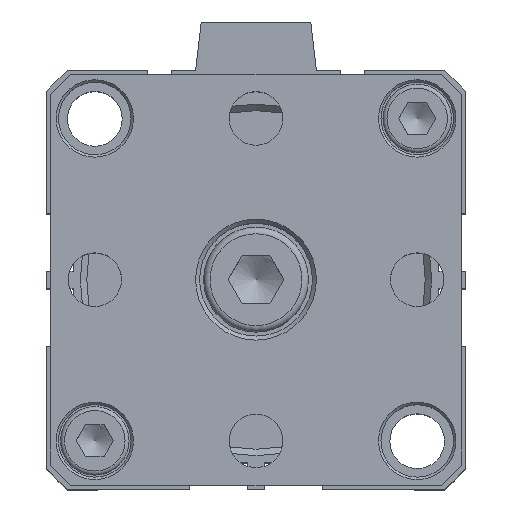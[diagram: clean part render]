
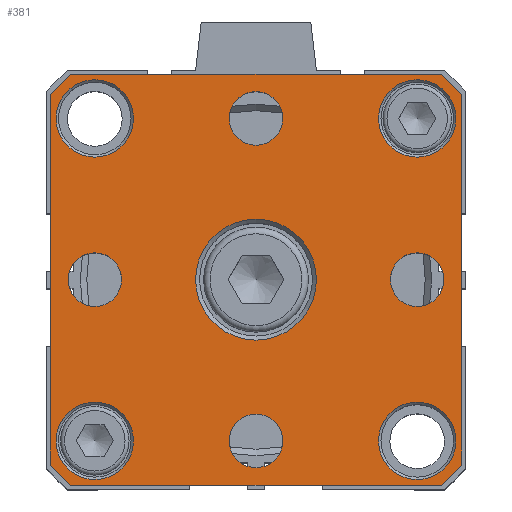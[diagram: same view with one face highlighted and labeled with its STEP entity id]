
A CAD part, top view. The second image highlights one B-rep face of the part: STEP entity #381.
In plain terms, the highlighted planar face has unit normal (0, 0, 1).
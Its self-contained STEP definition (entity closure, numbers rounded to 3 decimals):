
#207=CARTESIAN_POINT('',(25.398,21.555,56.1));
#208=VERTEX_POINT('',#207);
#209=CARTESIAN_POINT('',(20.598,21.555,56.1));
#210=DIRECTION('',(0.0,0.0,1.0));
#211=DIRECTION('',(-1.0,0.0,0.0));
#212=AXIS2_PLACEMENT_3D('',#209,#210,#211);
#213=CIRCLE('',#212,4.8);
#214=EDGE_CURVE('',#208,#208,#213,.T.);
#219=CARTESIAN_POINT('',(0.598,1.555,56.1));
#220=DIRECTION('',(0.0,0.0,1.0));
#221=DIRECTION('',(1.0,0.0,0.0));
#222=AXIS2_PLACEMENT_3D('',#219,#220,#221);
#223=PLANE('',#222);
#224=CARTESIAN_POINT('',(-24.902,24.555,56.1));
#225=VERTEX_POINT('',#224);
#226=CARTESIAN_POINT('',(-22.402,27.055,56.1));
#227=VERTEX_POINT('',#226);
#228=CARTESIAN_POINT('',(-24.902,24.555,56.1));
#229=DIRECTION('',(0.707,0.707,0.0));
#230=VECTOR('',#229,3.536);
#231=LINE('',#228,#230);
#232=EDGE_CURVE('',#225,#227,#231,.T.);
#233=ORIENTED_EDGE('',*,*,#232,.F.);
#234=CARTESIAN_POINT('',(-24.902,-21.445,56.1));
#235=VERTEX_POINT('',#234);
#236=CARTESIAN_POINT('',(-24.902,-21.445,56.1));
#237=DIRECTION('',(0.0,1.0,0.0));
#238=VECTOR('',#237,46.);
#239=LINE('',#236,#238);
#240=EDGE_CURVE('',#235,#225,#239,.T.);
#241=ORIENTED_EDGE('',*,*,#240,.F.);
#242=CARTESIAN_POINT('',(-22.402,-23.945,56.1));
#243=VERTEX_POINT('',#242);
#244=CARTESIAN_POINT('',(-22.402,-23.945,56.1));
#245=DIRECTION('',(-0.707,0.707,0.0));
#246=VECTOR('',#245,3.536);
#247=LINE('',#244,#246);
#248=EDGE_CURVE('',#243,#235,#247,.T.);
#249=ORIENTED_EDGE('',*,*,#248,.F.);
#250=CARTESIAN_POINT('',(23.598,-23.945,56.1));
#251=VERTEX_POINT('',#250);
#252=CARTESIAN_POINT('',(23.598,-23.945,56.1));
#253=DIRECTION('',(-1.0,0.0,0.0));
#254=VECTOR('',#253,46.);
#255=LINE('',#252,#254);
#256=EDGE_CURVE('',#251,#243,#255,.T.);
#257=ORIENTED_EDGE('',*,*,#256,.F.);
#258=CARTESIAN_POINT('',(26.098,-21.445,56.1));
#259=VERTEX_POINT('',#258);
#260=CARTESIAN_POINT('',(26.098,-21.445,56.1));
#261=DIRECTION('',(-0.707,-0.707,0.0));
#262=VECTOR('',#261,3.536);
#263=LINE('',#260,#262);
#264=EDGE_CURVE('',#259,#251,#263,.T.);
#265=ORIENTED_EDGE('',*,*,#264,.F.);
#266=CARTESIAN_POINT('',(26.098,24.555,56.1));
#267=VERTEX_POINT('',#266);
#268=CARTESIAN_POINT('',(26.098,24.555,56.1));
#269=DIRECTION('',(0.0,-1.0,0.0));
#270=VECTOR('',#269,46.);
#271=LINE('',#268,#270);
#272=EDGE_CURVE('',#267,#259,#271,.T.);
#273=ORIENTED_EDGE('',*,*,#272,.F.);
#274=CARTESIAN_POINT('',(23.598,27.055,56.1));
#275=VERTEX_POINT('',#274);
#276=CARTESIAN_POINT('',(23.598,27.055,56.1));
#277=DIRECTION('',(0.707,-0.707,0.0));
#278=VECTOR('',#277,3.536);
#279=LINE('',#276,#278);
#280=EDGE_CURVE('',#275,#267,#279,.T.);
#281=ORIENTED_EDGE('',*,*,#280,.F.);
#282=CARTESIAN_POINT('',(-22.402,27.055,56.1));
#283=DIRECTION('',(1.0,0.0,0.0));
#284=VECTOR('',#283,46.);
#285=LINE('',#282,#284);
#286=EDGE_CURVE('',#227,#275,#285,.T.);
#287=ORIENTED_EDGE('',*,*,#286,.F.);
#288=EDGE_LOOP('',(#233,#241,#249,#257,#265,#273,#281,#287));
#289=FACE_OUTER_BOUND('',#288,.T.);
#290=CARTESIAN_POINT('',(25.398,-18.445,56.1));
#291=VERTEX_POINT('',#290);
#292=CARTESIAN_POINT('',(20.598,-18.445,56.1));
#293=DIRECTION('',(0.0,0.0,1.0));
#294=DIRECTION('',(-1.0,0.0,0.0));
#295=AXIS2_PLACEMENT_3D('',#292,#293,#294);
#296=CIRCLE('',#295,4.8);
#297=EDGE_CURVE('',#291,#291,#296,.T.);
#298=ORIENTED_EDGE('',*,*,#297,.F.);
#299=EDGE_LOOP('',(#298));
#300=FACE_BOUND('',#299,.T.);
#301=CARTESIAN_POINT('',(-14.602,21.555,56.1));
#302=VERTEX_POINT('',#301);
#303=CARTESIAN_POINT('',(-19.402,21.555,56.1));
#304=DIRECTION('',(0.0,0.0,1.0));
#305=DIRECTION('',(-1.0,0.0,0.0));
#306=AXIS2_PLACEMENT_3D('',#303,#304,#305);
#307=CIRCLE('',#306,4.8);
#308=EDGE_CURVE('',#302,#302,#307,.T.);
#309=ORIENTED_EDGE('',*,*,#308,.F.);
#310=EDGE_LOOP('',(#309));
#311=FACE_BOUND('',#310,.T.);
#312=CARTESIAN_POINT('',(3.922,21.555,56.1));
#313=VERTEX_POINT('',#312);
#314=CARTESIAN_POINT('',(0.598,21.555,56.1));
#315=DIRECTION('',(0.0,0.0,-1.0));
#316=DIRECTION('',(1.0,0.0,0.0));
#317=AXIS2_PLACEMENT_3D('',#314,#315,#316);
#318=CIRCLE('',#317,3.324);
#319=EDGE_CURVE('',#313,#313,#318,.T.);
#320=ORIENTED_EDGE('',*,*,#319,.T.);
#321=EDGE_LOOP('',(#320));
#322=FACE_BOUND('',#321,.T.);
#323=CARTESIAN_POINT('',(-16.078,1.555,56.1));
#324=VERTEX_POINT('',#323);
#325=CARTESIAN_POINT('',(-19.402,1.555,56.1));
#326=DIRECTION('',(0.0,0.0,-1.0));
#327=DIRECTION('',(1.0,0.0,0.0));
#328=AXIS2_PLACEMENT_3D('',#325,#326,#327);
#329=CIRCLE('',#328,3.324);
#330=EDGE_CURVE('',#324,#324,#329,.T.);
#331=ORIENTED_EDGE('',*,*,#330,.T.);
#332=EDGE_LOOP('',(#331));
#333=FACE_BOUND('',#332,.T.);
#334=CARTESIAN_POINT('',(3.922,-18.445,56.1));
#335=VERTEX_POINT('',#334);
#336=CARTESIAN_POINT('',(0.598,-18.445,56.1));
#337=DIRECTION('',(0.0,0.0,-1.0));
#338=DIRECTION('',(1.0,0.0,0.0));
#339=AXIS2_PLACEMENT_3D('',#336,#337,#338);
#340=CIRCLE('',#339,3.324);
#341=EDGE_CURVE('',#335,#335,#340,.T.);
#342=ORIENTED_EDGE('',*,*,#341,.T.);
#343=EDGE_LOOP('',(#342));
#344=FACE_BOUND('',#343,.T.);
#345=CARTESIAN_POINT('',(23.922,1.555,56.1));
#346=VERTEX_POINT('',#345);
#347=CARTESIAN_POINT('',(20.598,1.555,56.1));
#348=DIRECTION('',(0.0,0.0,-1.0));
#349=DIRECTION('',(1.0,0.0,0.0));
#350=AXIS2_PLACEMENT_3D('',#347,#348,#349);
#351=CIRCLE('',#350,3.324);
#352=EDGE_CURVE('',#346,#346,#351,.T.);
#353=ORIENTED_EDGE('',*,*,#352,.T.);
#354=EDGE_LOOP('',(#353));
#355=FACE_BOUND('',#354,.T.);
#356=CARTESIAN_POINT('',(8.098,1.555,56.1));
#357=VERTEX_POINT('',#356);
#358=CARTESIAN_POINT('',(0.598,1.555,56.1));
#359=DIRECTION('',(0.0,0.0,1.0));
#360=DIRECTION('',(-1.0,0.0,0.0));
#361=AXIS2_PLACEMENT_3D('',#358,#359,#360);
#362=CIRCLE('',#361,7.5);
#363=EDGE_CURVE('',#357,#357,#362,.T.);
#364=ORIENTED_EDGE('',*,*,#363,.F.);
#365=EDGE_LOOP('',(#364));
#366=FACE_BOUND('',#365,.T.);
#367=CARTESIAN_POINT('',(-14.602,-18.445,56.1));
#368=VERTEX_POINT('',#367);
#369=CARTESIAN_POINT('',(-19.402,-18.445,56.1));
#370=DIRECTION('',(0.0,0.0,1.0));
#371=DIRECTION('',(-1.0,0.0,0.0));
#372=AXIS2_PLACEMENT_3D('',#369,#370,#371);
#373=CIRCLE('',#372,4.8);
#374=EDGE_CURVE('',#368,#368,#373,.T.);
#375=ORIENTED_EDGE('',*,*,#374,.F.);
#376=EDGE_LOOP('',(#375));
#377=FACE_BOUND('',#376,.T.);
#378=ORIENTED_EDGE('',*,*,#214,.F.);
#379=EDGE_LOOP('',(#378));
#380=FACE_BOUND('',#379,.T.);
#381=ADVANCED_FACE('',(#289,#300,#311,#322,#333,#344,#355,#366,#377,#380),#223,.T.);
